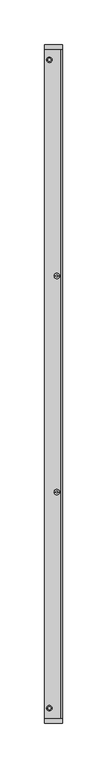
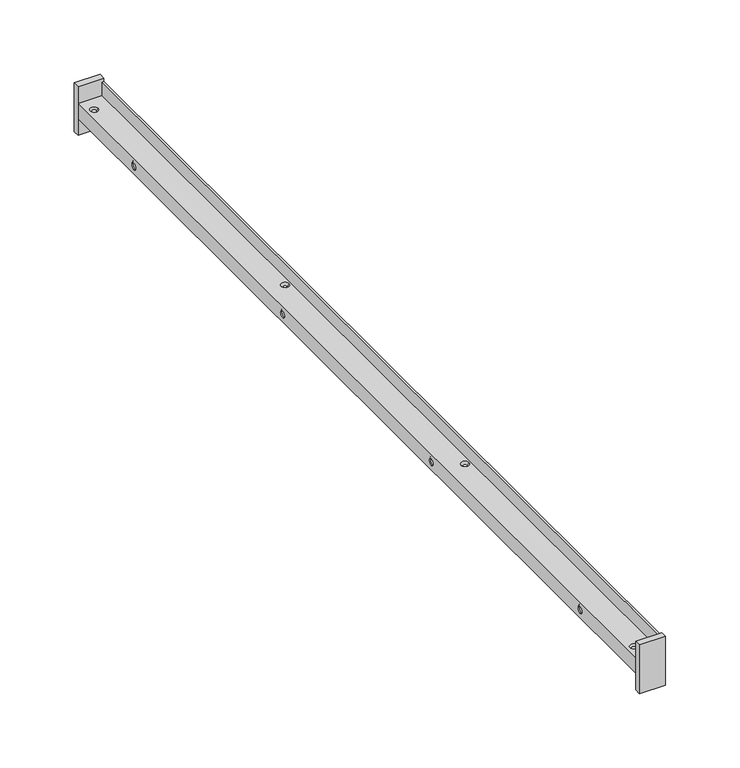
"""IFC4 building model written with IfcOpenShell, lengths in millimetres: proxy geometry, LVIB-MEXX-001."""

from ifc_helpers import new_model, si_unit, frame, origin, place, context, project, spatial, polyline, circle_curve, faceted_brep, source, transform, mapped, element, save
from ifc_brep_helpers import plane_surface, revolved_surface, advanced_brep


def generic_models_5072f9b4(model_context):
    return source(origin(), model_context, "Body", "SolidModel", [
        faceted_brep([(-18.5, 0.0, -12.5), (-8.5, 0.0, -12.5), (-8.5, 15.0, -12.5), (-18.5, 15.0, -12.5), (-8.5, 0.0, -22.5), (-18.5, 0.0, -22.5), (-18.5, 15.0, -22.5), (-8.5, 15.0, -22.5), (-20.0, 0.0, 2.5), (-20.0, 0.0, -37.5), (-20.0, -5.0, -37.5), (-20.0, -5.0, 2.5), (0.0, 0.0, -37.5), (0.0, -5.0, -37.5), (0.0, 0.0, 2.5), (0.0, -5.0, 2.5)], [[[0, 1, 2, 3]], [[4, 5, 6, 7]], [[1, 4, 7, 2]], [[5, 0, 3, 6]], [[3, 2, 7, 6]], [[8, 9, 10, 11]], [[9, 12, 13, 10]], [[12, 14, 15, 13]], [[14, 8, 11, 15]], [[15, 11, 10, 13]], [[8, 14, 12, 9], [4, 1, 0, 5]]]),
        faceted_brep([(-8.5, 750.0, -12.5), (-18.5, 750.0, -12.5), (-18.5, 735.0, -12.5), (-8.5, 735.0, -12.5), (-18.5, 750.0, -22.5), (-8.5, 750.0, -22.5), (-8.5, 735.0, -22.5), (-18.5, 735.0, -22.5), (-20.0, 750.0, -37.5), (-20.0, 750.0, 2.5), (-20.0, 755.0, 2.5), (-20.0, 755.0, -37.5), (0.0, 750.0, -37.5), (0.0, 755.0, -37.5), (0.0, 750.0, 2.5), (0.0, 755.0, 2.5)], [[[0, 1, 2, 3]], [[4, 5, 6, 7]], [[5, 0, 3, 6]], [[1, 4, 7, 2]], [[3, 2, 7, 6]], [[8, 9, 10, 11]], [[12, 8, 11, 13]], [[14, 12, 13, 15]], [[9, 14, 15, 10]], [[10, 15, 13, 11]], [[14, 9, 8, 12], [0, 5, 4, 1]]]),
        advanced_brep(
        [(-20.0, 75.0, -20.0), (-18.5, 75.0, -21.5), (-18.5, 75.0, -13.5), (-20.0, 75.0, -15.0), (-20.0, 275.0, -20.0), (-18.5, 275.0, -21.5), (-18.5, 275.0, -13.5), (-20.0, 275.0, -15.0), (-20.0, 475.0, -20.0), (-18.5, 475.0, -21.5), (-18.5, 475.0, -13.5), (-20.0, 475.0, -15.0), (-20.0, 675.0, -20.0), (-18.5, 675.0, -21.5), (-18.5, 675.0, -13.5), (-20.0, 675.0, -15.0), (-13.0, 738.0, -12.5), (-11.5, 738.0, -11.0), (-17.5, 738.0, -11.0), (-16.0, 738.0, -12.5), (-4.5, 496.0, -12.5), (-3.0, 496.0, -11.0), (-9.0, 496.0, -11.0), (-7.5, 496.0, -12.5), (-4.5, 254.0, -12.5), (-3.0, 254.0, -11.0), (-9.0, 254.0, -11.0), (-7.5, 254.0, -12.5), (-13.0, 12.0, -12.5), (-11.5, 12.0, -11.0), (-17.5, 12.0, -11.0), (-16.0, 12.0, -12.5), (-13.0, 738.0, -22.5), (-11.5, 738.0, -24.0), (-17.5, 738.0, -24.0), (-16.0, 738.0, -22.5), (-4.5, 496.0, -22.5), (-3.0, 496.0, -24.0), (-9.0, 496.0, -24.0), (-7.5, 496.0, -22.5), (-4.5, 254.0, -22.5), (-3.0, 254.0, -24.0), (-9.0, 254.0, -24.0), (-7.5, 254.0, -22.5), (-13.0, 12.0, -22.5), (-11.5, 12.0, -24.0), (-17.5, 12.0, -24.0), (-16.0, 12.0, -22.5), (-1.5, 0.0, 0.0), (0.0, 0.0, 0.0), (0.0, 750.0, 0.0), (-1.5, 750.0, 0.0), (-1.5, 0.0, -11.0), (-1.5, 750.0, -11.0), (-20.0, 0.0, -11.0), (-20.0, 750.0, -11.0), (-20.0, 0.0, -24.0), (-20.0, 750.0, -24.0), (-1.5, 0.0, -24.0), (-1.5, 750.0, -24.0), (-1.5, 0.0, -35.0), (-1.5, 750.0, -35.0), (0.0, 0.0, -35.0), (0.0, 750.0, -35.0), (0.0, 0.0, -22.5), (0.0, 750.0, -22.5), (-18.5, 0.0, -22.5), (-18.5, 750.0, -22.5), (-18.5, 0.0, -12.5), (-18.5, 750.0, -12.5), (0.0, 0.0, -12.5), (0.0, 750.0, -12.5)],
        [
            (0, 1),
            (1, 2, circle_curve(frame((-18.5, 75.0, -17.5), z_axis=(1.0, 0.0, 0.0), x_axis=(0.0, 0.0, -1.0)), 4.0)),
            (2, 3),
            (3, 0, circle_curve(frame((-20.0, 75.0, -17.5), z_axis=(-1.0, 0.0, 0.0), x_axis=(0.0, 0.0, -1.0)), 2.5)),
            (4, 5),
            (5, 6, circle_curve(frame((-18.5, 275.0, -17.5), z_axis=(1.0, 0.0, 0.0), x_axis=(0.0, 0.0, -1.0)), 4.0)),
            (6, 7),
            (7, 4, circle_curve(frame((-20.0, 275.0, -17.5), z_axis=(-1.0, 0.0, 0.0), x_axis=(0.0, 0.0, -1.0)), 2.5)),
            (8, 9),
            (9, 10, circle_curve(frame((-18.5, 475.0, -17.5), z_axis=(1.0, 0.0, 0.0), x_axis=(0.0, 0.0, -1.0)), 4.0)),
            (10, 11),
            (11, 8, circle_curve(frame((-20.0, 475.0, -17.5), z_axis=(-1.0, 0.0, 0.0), x_axis=(0.0, 0.0, -1.0)), 2.5)),
            (12, 13),
            (13, 14, circle_curve(frame((-18.5, 675.0, -17.5), z_axis=(1.0, 0.0, 0.0), x_axis=(0.0, 0.0, -1.0)), 4.0)),
            (14, 15),
            (15, 12, circle_curve(frame((-20.0, 675.0, -17.5), z_axis=(-1.0, 0.0, 0.0), x_axis=(0.0, 0.0, -1.0)), 2.5)),
            (16, 17),
            (17, 18, circle_curve(frame((-14.5, 738.0, -11.0), z_axis=(0.0, 0.0, 1.0), x_axis=(1.0, 0.0, 0.0)), 3.0)),
            (18, 19),
            (19, 16, circle_curve(frame((-14.5, 738.0, -12.5), z_axis=(0.0, 0.0, -1.0), x_axis=(1.0, 0.0, 0.0)), 1.5)),
            (20, 21),
            (21, 22, circle_curve(frame((-6.0, 496.0, -11.0), z_axis=(0.0, 0.0, 1.0), x_axis=(1.0, 0.0, 0.0)), 3.0)),
            (22, 23),
            (23, 20, circle_curve(frame((-6.0, 496.0, -12.5), z_axis=(0.0, 0.0, -1.0), x_axis=(1.0, 0.0, 0.0)), 1.5)),
            (24, 25),
            (25, 26, circle_curve(frame((-6.0, 254.0, -11.0), z_axis=(0.0, 0.0, 1.0), x_axis=(1.0, 0.0, 0.0)), 3.0)),
            (26, 27),
            (27, 24, circle_curve(frame((-6.0, 254.0, -12.5), z_axis=(0.0, 0.0, -1.0), x_axis=(1.0, 0.0, 0.0)), 1.5)),
            (28, 29),
            (29, 30, circle_curve(frame((-14.5, 12.0, -11.0), z_axis=(0.0, 0.0, 1.0), x_axis=(1.0, 0.0, 0.0)), 3.0)),
            (30, 31),
            (31, 28, circle_curve(frame((-14.5, 12.0, -12.5), z_axis=(0.0, 0.0, -1.0), x_axis=(1.0, 0.0, 0.0)), 1.5)),
            (32, 33),
            (33, 34, circle_curve(frame((-14.5, 738.0, -24.0), z_axis=(-3.263171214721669e-11, 0.0, -1.0), x_axis=(-1.0, 0.0, 3.263170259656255e-11)), 3.0)),
            (34, 35),
            (35, 32, circle_curve(frame((-14.5, 738.0, -22.5), z_axis=(3.263171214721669e-11, 0.0, 1.0), x_axis=(-1.0, 0.0, 3.263170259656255e-11)), 1.5)),
            (36, 37),
            (37, 38, circle_curve(frame((-6.0, 496.0, -24.0), z_axis=(-3.263171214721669e-11, 0.0, -1.0), x_axis=(-1.0, 0.0, 3.263170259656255e-11)), 3.0)),
            (38, 39),
            (39, 36, circle_curve(frame((-6.0, 496.0, -22.5), z_axis=(3.263171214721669e-11, 0.0, 1.0), x_axis=(-1.0, 0.0, 3.263170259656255e-11)), 1.5)),
            (40, 41),
            (41, 42, circle_curve(frame((-6.0, 254.0, -24.0), z_axis=(-3.263171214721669e-11, 0.0, -1.0), x_axis=(-1.0, 0.0, 3.263170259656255e-11)), 3.0)),
            (42, 43),
            (43, 40, circle_curve(frame((-6.0, 254.0, -22.5), z_axis=(3.263171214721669e-11, 0.0, 1.0), x_axis=(-1.0, 0.0, 3.263170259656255e-11)), 1.5)),
            (44, 45),
            (45, 46, circle_curve(frame((-14.5, 12.0, -24.0), z_axis=(-3.263171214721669e-11, 0.0, -1.0), x_axis=(-1.0, 0.0, 3.263170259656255e-11)), 3.0)),
            (46, 47),
            (47, 44, circle_curve(frame((-14.5, 12.0, -22.5), z_axis=(3.263171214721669e-11, 0.0, 1.0), x_axis=(-1.0, 0.0, 3.263170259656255e-11)), 1.5)),
            (44, 47, circle_curve(frame((-14.5, 12.0, -22.5), z_axis=(3.263171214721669e-11, 0.0, 1.0), x_axis=(1.0, 0.0, -3.263170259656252e-11)), 1.5)),
            (46, 45, circle_curve(frame((-14.5, 12.0, -24.0), z_axis=(-3.263171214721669e-11, 0.0, -1.0), x_axis=(1.0, 0.0, -3.263170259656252e-11)), 3.0)),
            (40, 43, circle_curve(frame((-6.0, 254.0, -22.5), z_axis=(3.263171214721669e-11, 0.0, 1.0), x_axis=(1.0, 0.0, -3.263170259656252e-11)), 1.5)),
            (42, 41, circle_curve(frame((-6.0, 254.0, -24.0), z_axis=(-3.263171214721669e-11, 0.0, -1.0), x_axis=(1.0, 0.0, -3.263170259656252e-11)), 3.0)),
            (36, 39, circle_curve(frame((-6.0, 496.0, -22.5), z_axis=(3.263171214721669e-11, 0.0, 1.0), x_axis=(1.0, 0.0, -3.263170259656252e-11)), 1.5)),
            (38, 37, circle_curve(frame((-6.0, 496.0, -24.0), z_axis=(-3.263171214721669e-11, 0.0, -1.0), x_axis=(1.0, 0.0, -3.263170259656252e-11)), 3.0)),
            (32, 35, circle_curve(frame((-14.5, 738.0, -22.5), z_axis=(3.263171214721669e-11, 0.0, 1.0), x_axis=(1.0, 0.0, -3.263170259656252e-11)), 1.5)),
            (34, 33, circle_curve(frame((-14.5, 738.0, -24.0), z_axis=(-3.263171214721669e-11, 0.0, -1.0), x_axis=(1.0, 0.0, -3.263170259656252e-11)), 3.0)),
            (28, 31, circle_curve(frame((-14.5, 12.0, -12.5), z_axis=(0.0, 0.0, -1.0), x_axis=(-1.0, 0.0, 0.0)), 1.5)),
            (30, 29, circle_curve(frame((-14.5, 12.0, -11.0), z_axis=(0.0, 0.0, 1.0), x_axis=(-1.0, 0.0, 0.0)), 3.0)),
            (24, 27, circle_curve(frame((-6.0, 254.0, -12.5), z_axis=(0.0, 0.0, -1.0), x_axis=(-1.0, 0.0, 0.0)), 1.5)),
            (26, 25, circle_curve(frame((-6.0, 254.0, -11.0), z_axis=(0.0, 0.0, 1.0), x_axis=(-1.0, 0.0, 0.0)), 3.0)),
            (20, 23, circle_curve(frame((-6.0, 496.0, -12.5), z_axis=(0.0, 0.0, -1.0), x_axis=(-1.0, 0.0, 0.0)), 1.5)),
            (22, 21, circle_curve(frame((-6.0, 496.0, -11.0), z_axis=(0.0, 0.0, 1.0), x_axis=(-1.0, 0.0, 0.0)), 3.0)),
            (16, 19, circle_curve(frame((-14.5, 738.0, -12.5), z_axis=(0.0, 0.0, -1.0), x_axis=(-1.0, 0.0, 0.0)), 1.5)),
            (18, 17, circle_curve(frame((-14.5, 738.0, -11.0), z_axis=(0.0, 0.0, 1.0), x_axis=(-1.0, 0.0, 0.0)), 3.0)),
            (12, 15, circle_curve(frame((-20.0, 675.0, -17.5), z_axis=(-1.0, 0.0, 0.0), x_axis=(0.0, 0.0, 1.0)), 2.5)),
            (14, 13, circle_curve(frame((-18.5, 675.0, -17.5), z_axis=(1.0, 0.0, 0.0), x_axis=(0.0, 0.0, 1.0)), 4.0)),
            (8, 11, circle_curve(frame((-20.0, 475.0, -17.5), z_axis=(-1.0, 0.0, 0.0), x_axis=(0.0, 0.0, 1.0)), 2.5)),
            (10, 9, circle_curve(frame((-18.5, 475.0, -17.5), z_axis=(1.0, 0.0, 0.0), x_axis=(0.0, 0.0, 1.0)), 4.0)),
            (4, 7, circle_curve(frame((-20.0, 275.0, -17.5), z_axis=(-1.0, 0.0, 0.0), x_axis=(0.0, 0.0, 1.0)), 2.5)),
            (6, 5, circle_curve(frame((-18.5, 275.0, -17.5), z_axis=(1.0, 0.0, 0.0), x_axis=(0.0, 0.0, 1.0)), 4.0)),
            (0, 3, circle_curve(frame((-20.0, 75.0, -17.5), z_axis=(-1.0, 0.0, 0.0), x_axis=(0.0, 0.0, 1.0)), 2.5)),
            (2, 1, circle_curve(frame((-18.5, 75.0, -17.5), z_axis=(1.0, 0.0, 0.0), x_axis=(0.0, 0.0, 1.0)), 4.0)),
            (48, 49),
            (49, 50),
            (50, 51),
            (51, 48),
            (52, 48),
            (51, 53),
            (53, 52),
            (54, 52),
            (53, 55),
            (55, 54),
            (56, 54),
            (55, 57),
            (57, 56),
            (58, 56),
            (57, 59),
            (59, 58),
            (60, 58),
            (59, 61),
            (61, 60),
            (62, 60),
            (61, 63),
            (63, 62),
            (64, 62),
            (63, 65),
            (65, 64),
            (66, 64),
            (65, 67),
            (67, 66),
            (68, 66),
            (67, 69),
            (69, 68),
            (70, 68),
            (69, 71),
            (71, 70),
            (49, 70),
            (71, 50),
        ],
        [
            revolved_surface(polyline([(-18.5, 75.0, -21.5), (-20.0, 75.0, -20.0)]), (-22.5, 75.0, -17.5), (1.0, 0.0, 0.0)),
            revolved_surface(polyline([(-18.5, 275.0, -21.5), (-20.0, 275.0, -20.0)]), (-22.5, 275.0, -17.5), (1.0, 0.0, 0.0)),
            revolved_surface(polyline([(-18.5, 475.0, -21.5), (-20.0, 475.0, -20.0)]), (-22.5, 475.0, -17.5), (1.0, 0.0, 0.0)),
            revolved_surface(polyline([(-18.5, 675.0, -21.5), (-20.0, 675.0, -20.0)]), (-22.5, 675.0, -17.5), (1.0, 0.0, 0.0)),
            revolved_surface(polyline([(-11.5, 738.0, -11.0), (-13.0, 738.0, -12.5)]), (-14.5, 738.0, -14.0), (0.0, 0.0, 1.0)),
            revolved_surface(polyline([(-3.0, 496.0, -11.0), (-4.5, 496.0, -12.5)]), (-6.0, 496.0, -14.0), (0.0, 0.0, 1.0)),
            revolved_surface(polyline([(-3.0, 254.0, -11.0), (-4.5, 254.0, -12.5)]), (-6.0, 254.0, -14.0), (0.0, 0.0, 1.0)),
            revolved_surface(polyline([(-11.5, 12.0, -11.0), (-13.0, 12.0, -12.5)]), (-14.5, 12.0, -14.0), (0.0, 0.0, 1.0)),
            revolved_surface(polyline([(-11.49999999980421, 738.0, -24.00000000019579), (-13.0, 738.0, -22.5)]), (-14.5, 738.0, -21.0), (-3.263171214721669e-11, 0.0, -1.0)),
            revolved_surface(polyline([(-2.99999999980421, 496.0, -24.00000000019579), (-4.5, 496.0, -22.5)]), (-6.0, 496.0, -21.0), (-3.263171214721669e-11, 0.0, -1.0)),
            revolved_surface(polyline([(-2.99999999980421, 254.0, -24.00000000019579), (-4.5, 254.0, -22.5)]), (-6.0, 254.0, -21.0), (-3.263171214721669e-11, 0.0, -1.0)),
            revolved_surface(polyline([(-11.49999999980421, 12.0, -24.00000000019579), (-13.0, 12.0, -22.5)]), (-14.5, 12.0, -21.0), (-3.263171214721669e-11, 0.0, -1.0)),
            plane_surface(frame((-1.5, 0.0, 0.0), z_axis=(0.0, 0.0, 1.0), x_axis=(1.0, 0.0, 0.0))),
            plane_surface(frame((-1.5, 0.0, -11.0), z_axis=(-1.0, 0.0, -2.64581286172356e-12), x_axis=(-2.64581286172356e-12, 0.0, 1.0))),
            plane_surface(frame((-20.0, 0.0, -11.0), z_axis=(0.0, 0.0, 1.0), x_axis=(1.0, 0.0, 0.0))),
            plane_surface(frame((-20.0, 0.0, -24.0), z_axis=(-1.0, 0.0, 0.0), x_axis=(0.0, 0.0, 1.0))),
            plane_surface(frame((-1.5, 0.0, -24.0), z_axis=(0.0, 0.0, -1.0), x_axis=(-1.0, 0.0, 0.0))),
            plane_surface(frame((-1.5, 0.0, -35.0), z_axis=(-1.0, 0.0, 2.645863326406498e-12), x_axis=(2.645863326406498e-12, 0.0, 1.0))),
            plane_surface(frame((0.0, 0.0, -35.0), z_axis=(-3.2625753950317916e-11, 0.0, -1.0), x_axis=(-1.0, 0.0, 3.2625753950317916e-11))),
            plane_surface(frame((0.0, 0.0, -22.5), z_axis=(1.0, 0.0, 0.0), x_axis=(0.0, 0.0, -1.0))),
            plane_surface(frame((-18.5, 0.0, -22.5), z_axis=(0.0, 0.0, 1.0), x_axis=(1.0, 0.0, 0.0))),
            plane_surface(frame((-18.5, 0.0, -12.5), z_axis=(1.0, 0.0, 0.0), x_axis=(0.0, 0.0, -1.0))),
            plane_surface(frame((0.0, 0.0, -12.5), z_axis=(0.0, 0.0, -1.0), x_axis=(-1.0, 0.0, 0.0))),
            plane_surface(frame((0.0, 0.0, 0.0), z_axis=(1.0, 0.0, 0.0), x_axis=(0.0, 0.0, -1.0))),
            plane_surface(frame((-10.0, 750.0, -17.5), z_axis=(0.0, 1.0, 0.0), x_axis=(0.0, 0.0, 1.0))),
            plane_surface(frame((-10.0, 0.0, -17.5), z_axis=(0.0, -1.0, 0.0), x_axis=(0.0, 0.0, 1.0))),
        ],
        [
            (0, [[1, 2, 3, 4]]),
            (1, [[5, 6, 7, 8]]),
            (2, [[9, 10, 11, 12]]),
            (3, [[13, 14, 15, 16]]),
            (4, [[17, 18, 19, 20]]),
            (5, [[21, 22, 23, 24]]),
            (6, [[25, 26, 27, 28]]),
            (7, [[29, 30, 31, 32]]),
            (8, [[33, 34, 35, 36]]),
            (9, [[37, 38, 39, 40]]),
            (10, [[41, 42, 43, 44]]),
            (11, [[45, 46, 47, 48]]),
            (11, [[-45, 49, -47, 50]]),
            (10, [[-41, 51, -43, 52]]),
            (9, [[-37, 53, -39, 54]]),
            (8, [[-33, 55, -35, 56]]),
            (7, [[-29, 57, -31, 58]]),
            (6, [[-25, 59, -27, 60]]),
            (5, [[-21, 61, -23, 62]]),
            (4, [[-17, 63, -19, 64]]),
            (3, [[-13, 65, -15, 66]]),
            (2, [[-9, 67, -11, 68]]),
            (1, [[-5, 69, -7, 70]]),
            (0, [[-1, 71, -3, 72]]),
            (12, [[73, 74, 75, 76]]),
            (13, [[77, -76, 78, 79]]),
            (14, [[80, -79, 81, 82], [-58, -30], [-60, -26], [-62, -22], [-64, -18]]),
            (15, [[83, -82, 84, 85], [-4, -71], [-8, -69], [-12, -67], [-16, -65]]),
            (16, [[86, -85, 87, 88], [-50, -46], [-52, -42], [-54, -38], [-56, -34]]),
            (17, [[89, -88, 90, 91]]),
            (18, [[92, -91, 93, 94]]),
            (19, [[95, -94, 96, 97]]),
            (20, [[98, -97, 99, 100], [-36, -55], [-40, -53], [-44, -51], [-48, -49]]),
            (21, [[101, -100, 102, 103], [-66, -14], [-68, -10], [-70, -6], [-72, -2]]),
            (22, [[104, -103, 105, 106], [-20, -63], [-24, -61], [-28, -59], [-32, -57]]),
            (23, [[107, -106, 108, -74]]),
            (24, [[-108, -105, -102, -99, -96, -93, -90, -87, -84, -81, -78, -75]]),
            (25, [[-107, -73, -77, -80, -83, -86, -89, -92, -95, -98, -101, -104]]),
        ],
    ),
    ])


if __name__ == "__main__":
    model = new_model("IFC4")
    model_context = context("Model", 3, world=origin())
    ifc_project = project(units=[si_unit("LENGTHUNIT", "METRE", prefix="MILLI")], contexts=[model_context])
    site = spatial("IfcSite", under=ifc_project)
    building = spatial("IfcBuilding", under=site)
    placement = place(None, origin())
    generic_models_shape = generic_models_5072f9b4(model_context)
    element("IfcBuildingElementProxy", 1, Name="LVIB-MEXX-001", ObjectType="LVIB-MEXX-001", at=placement, inside=building, context=model_context, shape_type="MappedRepresentation", body=[
        mapped(generic_models_shape, transform((0.0, 0.0, 0.0), x_axis=(1.0, 0.0, 0.0), y_axis=(0.0, 1.0, 0.0), z_axis=(0.0, 0.0, 1.0))),
    ])
    save(model, "model.ifc")
